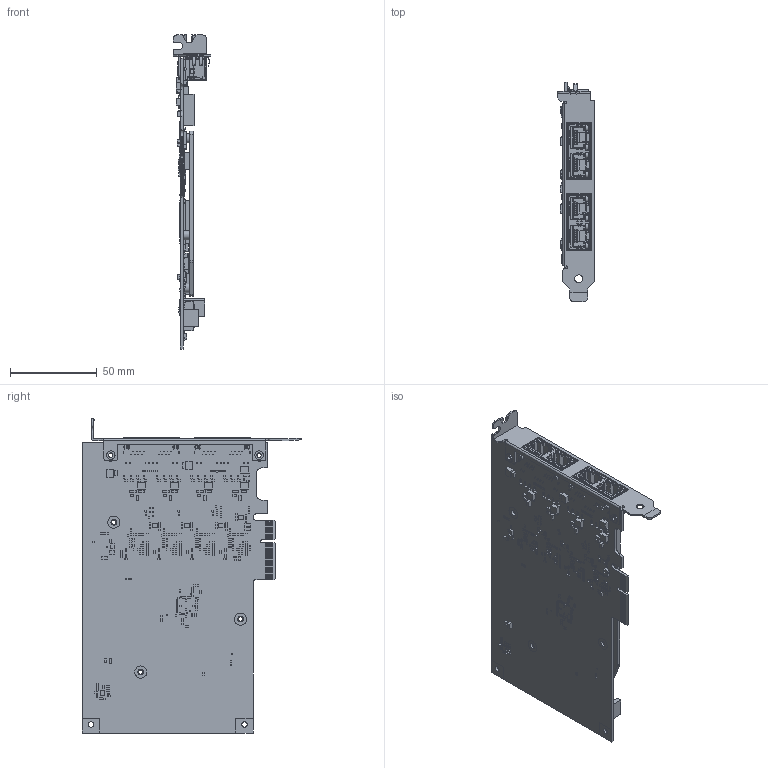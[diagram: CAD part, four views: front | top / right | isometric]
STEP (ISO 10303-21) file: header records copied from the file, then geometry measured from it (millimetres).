
FILE_DESCRIPTION (( 'STEP AP203' ), '1' );
FILE_NAME ('PCIe-PoE464at.STEP', '2026-05-26T06:20:44', ( '' ), ( '' ), 'SwSTEP 2.0', 'SolidWorks 2018', '' );
FILE_SCHEMA (( 'CONFIG_CONTROL_DESIGN' ));
Length unit declared in the file: millimetre
Products named in the file (7): PCIe-PoE464at Bracket; PCIe-PoE464at PCBA_PCIe-PoE464at; PCIe-PoE464at HS; PCIe-PoE464at; Conn_UDE_HRG-RT21-ZZ-0001; PCIe-PoE464at PCB; PCIe-POE464AT-ES2_260313-1120
Assembly tree (7 placements, depth 3):
  PCIe-PoE464at
    PCIe-PoE464at PCBA_PCIe-PoE464at
      PCIe-PoE464at PCB
      Conn_UDE_HRG-RT21-ZZ-0001  x2
      PCIe-POE464AT-ES2_260313-1120
    PCIe-PoE464at Bracket
    PCIe-PoE464at HS
Bounding box: 21.59 x 126.33 x 181.06 mm (x, y, z)
Volume: 56562.2 mm3; surface area: 97014.4 mm2
Topology: 130 solids, 1002 shells, 11921 faces, 29207 edges, 18286 vertices
Faces by surface type: plane 9968, cylinder 1393, bspline 444, cone 104, torus 12
Entity records: 257359 total; most frequent: CARTESIAN_POINT 56833, ORIENTED_EDGE 40212, DIRECTION 38866, EDGE_CURVE 20978, LINE 19110, VECTOR 19110, VERTEX_POINT 13127, AXIS2_PLACEMENT_3D 9878
